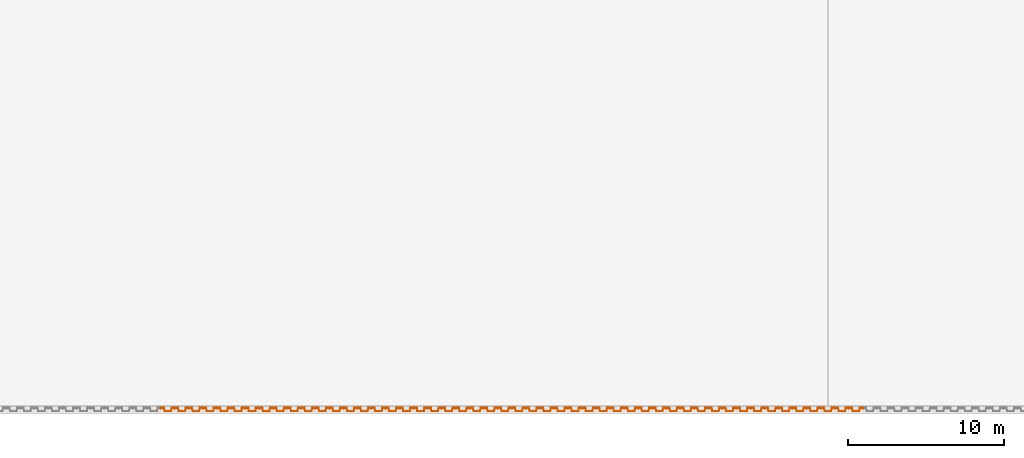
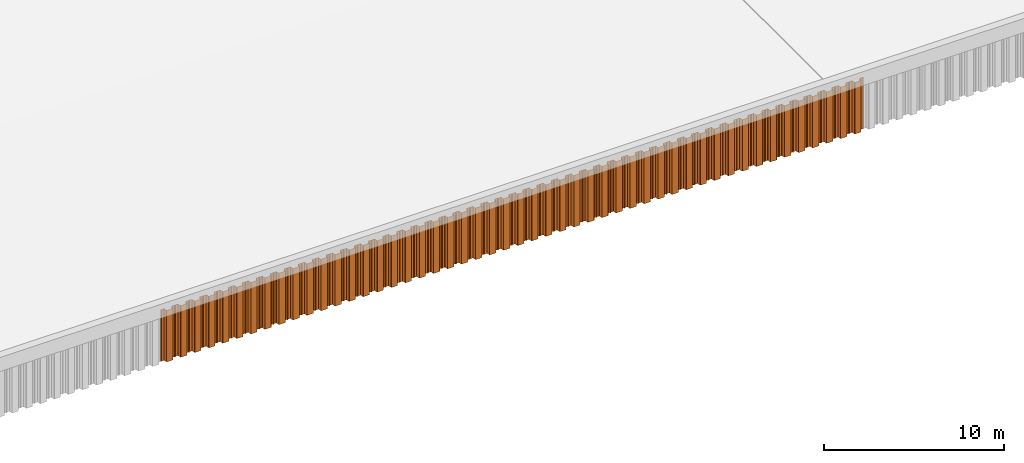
# One storey, part 18 of 32: 50 proxies.
"""IFC2X3 building model written with IfcOpenShell, lengths in millimetres."""

from ifc_helpers import new_model, entity, si_unit, converted_unit, derived_unit, direction, frame, frame_2d, origin, place, context, subcontext, project, spatial, polyline, circle_curve, parameter, trimmed, segment, composite_curve, outline, extrude, source, transform, mapped, type_object, type_shapes, element, save


model = new_model("IFC2X3")

# Units and contexts
model_context = context("Model", 3, precision=0.01, world=origin(), true_north=direction((6.12303176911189e-17, 1.0)))
body_context = subcontext(model_context, "Body", "Model", "MODEL_VIEW")
ifc_project = project(units=[si_unit("LENGTHUNIT", "METRE", prefix="MILLI"), si_unit("AREAUNIT", "SQUARE_METRE"), si_unit("VOLUMEUNIT", "CUBIC_METRE"), converted_unit("PLANEANGLEUNIT", "DEGREE", entity("IfcRatioMeasure", 0.0174532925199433), si_unit("PLANEANGLEUNIT", "RADIAN"), dimensions=[0, 0, 0, 0, 0, 0, 0]), si_unit("MASSUNIT", "GRAM", prefix="KILO"), derived_unit("MASSDENSITYUNIT", [(si_unit("MASSUNIT", "GRAM", prefix="KILO"), 1), (si_unit("LENGTHUNIT", "METRE"), -3)]), si_unit("TIMEUNIT", "SECOND"), si_unit("FREQUENCYUNIT", "HERTZ"), si_unit("THERMODYNAMICTEMPERATUREUNIT", "DEGREE_CELSIUS"), derived_unit("THERMALTRANSMITTANCEUNIT", [(si_unit("MASSUNIT", "GRAM", prefix="KILO"), 1), (si_unit("THERMODYNAMICTEMPERATUREUNIT", "KELVIN"), -1), (si_unit("TIMEUNIT", "SECOND"), -3)]), derived_unit("VOLUMETRICFLOWRATEUNIT", [(si_unit("LENGTHUNIT", "METRE"), 3), (si_unit("TIMEUNIT", "SECOND"), -1)]), si_unit("ELECTRICCURRENTUNIT", "AMPERE"), si_unit("ELECTRICVOLTAGEUNIT", "VOLT"), si_unit("POWERUNIT", "WATT"), si_unit("FORCEUNIT", "NEWTON", prefix="KILO"), si_unit("ILLUMINANCEUNIT", "LUX"), si_unit("LUMINOUSFLUXUNIT", "LUMEN"), si_unit("LUMINOUSINTENSITYUNIT", "CANDELA"), derived_unit("USERDEFINED", [(si_unit("MASSUNIT", "GRAM", prefix="KILO"), -1), (si_unit("LENGTHUNIT", "METRE"), -2), (si_unit("TIMEUNIT", "SECOND"), 3), (si_unit("LUMINOUSFLUXUNIT", "LUMEN"), 1)]), derived_unit("LINEARVELOCITYUNIT", [(si_unit("LENGTHUNIT", "METRE"), 1), (si_unit("TIMEUNIT", "SECOND"), -1)]), si_unit("PRESSUREUNIT", "PASCAL"), derived_unit("USERDEFINED", [(si_unit("LENGTHUNIT", "METRE"), -2), (si_unit("MASSUNIT", "GRAM", prefix="KILO"), 1), (si_unit("TIMEUNIT", "SECOND"), -2)])], contexts=[model_context])

# Site, building, storey
site_placement = place(None, origin())
site = spatial("IfcSite", under=ifc_project, at=site_placement, Name="Default", CompositionType="ELEMENT")
building_placement = place(site_placement, origin())
building = spatial("IfcBuilding", under=site, at=building_placement, CompositionType="ELEMENT")
storey_placement = place(building_placement, origin())
storey = spatial("IfcBuildingStorey", under=building, at=storey_placement, Name="矢板", CompositionType="ELEMENT", Elevation=0.0)

# Proxies
building_element_proxy_type = type_object("IfcBuildingElementProxyType", Name="鋼矢板10H型", PredefinedType="NOTDEFINED")
shared_shape = source(origin(), body_context, "Body", "SweptSolid", [
    extrude(outline(composite_curve([segment(trimmed(circle_curve(frame_2d((85.3662976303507, 306.644432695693), x_axis=(0.422618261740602, 0.906307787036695)), 13.885714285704), [parameter(24.9999999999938)], [parameter(90.0000000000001)], True, "PARAMETER"), True, "CONTINUOUS"), segment(polyline([(72.7815666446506, 312.512789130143), (9.8129512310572, 177.476157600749)]), True, "CONTINUOUS"), segment(trimmed(circle_curve(frame_2d((29.3891994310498, 168.347603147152), x_axis=(0.422618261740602, 0.906307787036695)), 21.6), [parameter(90.0000000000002)], [parameter(168.69006752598)], True, "PARAMETER"), True, "CONTINUOUS"), segment(polyline([(16.598697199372, 150.941769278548), (175.329723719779, 34.2998683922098)]), True, "CONTINUOUS"), segment(trimmed(circle_curve(frame_2d((168.93447260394, 25.596951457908), x_axis=(0.422618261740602, 0.906307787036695)), 10.7999999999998), [parameter(270.0)], [parameter(348.690067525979)], True, "PARAMETER"), False, "CONTINUOUS"), segment(polyline([(178.722596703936, 21.0326742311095), (18.2974003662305, -323.000269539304)]), True, "CONTINUOUS"), segment(trimmed(circle_curve(frame_2d((8.50927626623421, -318.435992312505), x_axis=(0.422618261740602, 0.906307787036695)), 10.8), [parameter(191.30993247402)], [parameter(269.999999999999)], True, "PARAMETER"), False, "CONTINUOUS"), segment(polyline([(5.95324328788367, -328.929166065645), (-185.429973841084, -282.310113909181)]), True, "CONTINUOUS"), segment(trimmed(circle_curve(frame_2d((-190.542039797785, -303.296461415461), x_axis=(0.422618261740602, 0.906307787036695)), 21.6000000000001), [parameter(11.3099324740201)], [parameter(90.0000000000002)], True, "PARAMETER"), True, "CONTINUOUS"), segment(polyline([(-210.118287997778, -294.167906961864), (-290.330886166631, -466.184378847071)]), True, "CONTINUOUS"), segment(trimmed(circle_curve(frame_2d((-270.754637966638, -475.312933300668), x_axis=(0.422618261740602, 0.906307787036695)), 21.6), [parameter(90.0000000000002)], [parameter(269.999999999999)], True, "PARAMETER"), True, "CONTINUOUS"), segment(polyline([(-251.178389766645, -484.441487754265), (-249.065298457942, -479.909948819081)]), True, "CONTINUOUS"), segment(polyline([(-249.065298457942, -479.909948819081), (-258.853422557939, -475.345671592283)]), True, "CONTINUOUS"), segment(polyline([(-258.853422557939, -475.345671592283), (-260.966513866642, -479.877210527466)]), True, "CONTINUOUS"), segment(trimmed(circle_curve(frame_2d((-270.754637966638, -475.312933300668), x_axis=(0.422618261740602, 0.906307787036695)), 10.8), [parameter(90.0000000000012)], [parameter(270.0)], True, "PARAMETER"), False, "CONTINUOUS"), segment(polyline([(-280.542762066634, -470.748656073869), (-200.330163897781, -298.732184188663)]), True, "CONTINUOUS"), segment(trimmed(circle_curve(frame_2d((-190.542039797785, -303.296461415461), x_axis=(0.422618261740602, 0.906307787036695)), 10.8), [parameter(11.3099324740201)], [parameter(89.9999999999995)], True, "PARAMETER"), False, "CONTINUOUS"), segment(polyline([(-187.986006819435, -292.803287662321), (3.39721030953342, -339.422339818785)]), True, "CONTINUOUS"), segment(trimmed(circle_curve(frame_2d((8.50927626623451, -318.435992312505), x_axis=(0.422618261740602, 0.906307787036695)), 21.6), [parameter(191.30993247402)], [parameter(270.0)], True, "PARAMETER"), True, "CONTINUOUS"), segment(polyline([(28.0855244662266, -327.564546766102), (188.510720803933, 16.4683970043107)]), True, "CONTINUOUS"), segment(trimmed(circle_curve(frame_2d((168.93447260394, 25.5969514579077), x_axis=(0.422618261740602, 0.906307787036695)), 21.6), [parameter(270.0)], [parameter(348.69006752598)], True, "PARAMETER"), True, "CONTINUOUS"), segment(polyline([(181.724974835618, 43.0027853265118), (22.9939483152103, 159.644686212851)]), True, "CONTINUOUS"), segment(trimmed(circle_curve(frame_2d((29.3891994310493, 168.347603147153), x_axis=(0.422618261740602, 0.906307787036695)), 10.7999999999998), [parameter(89.9999999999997)], [parameter(168.690067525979)], True, "PARAMETER"), False, "CONTINUOUS"), segment(polyline([(19.6010753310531, 172.911880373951), (82.5696907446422, 307.948511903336)]), True, "CONTINUOUS"), segment(trimmed(circle_curve(frame_2d((85.3662976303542, 306.64443269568), x_axis=(0.422618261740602, 0.906307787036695)), 3.08571428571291), [parameter(25.0000000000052)], [parameter(90.0000000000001)], True, "PARAMETER"), False, "CONTINUOUS"), segment(polyline([(85.3662976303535, 309.730146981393), (122.220231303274, 309.730146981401)]), True, "CONTINUOUS"), segment(trimmed(circle_curve(frame_2d((122.220231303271, 323.615861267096), x_axis=(0.422618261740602, 0.906307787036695)), 13.8857142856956), [parameter(205.000000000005)], [parameter(270.0)], True, "PARAMETER"), True, "CONTINUOUS"), segment(polyline([(134.804962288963, 317.747504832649), (141.079261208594, 331.202782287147)]), True, "CONTINUOUS"), segment(trimmed(circle_curve(frame_2d((121.503013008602, 340.331336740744), x_axis=(0.422618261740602, 0.906307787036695)), 21.6), [parameter(270.0)], [parameter(90.0000000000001)], True, "PARAMETER"), True, "CONTINUOUS"), segment(polyline([(101.926764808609, 349.459891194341), (99.8136734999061, 344.928352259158)]), True, "CONTINUOUS"), segment(polyline([(99.8136734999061, 344.928352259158), (109.601797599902, 340.364075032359)]), True, "CONTINUOUS"), segment(polyline([(109.601797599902, 340.364075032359), (111.714888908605, 344.895613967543)]), True, "CONTINUOUS"), segment(trimmed(circle_curve(frame_2d((121.503013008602, 340.331336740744), x_axis=(0.422618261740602, 0.906307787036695)), 10.8), [parameter(270.0)], [parameter(89.9999999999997)], True, "PARAMETER"), False, "CONTINUOUS"), segment(polyline([(131.291137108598, 335.767059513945), (125.01683818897, 322.311782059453)]), True, "CONTINUOUS"), segment(trimmed(circle_curve(frame_2d((122.220231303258, 323.615861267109), x_axis=(0.422618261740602, 0.906307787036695)), 3.08571428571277), [parameter(204.999999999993)], [parameter(270.0)], True, "PARAMETER"), False, "CONTINUOUS"), segment(polyline([(122.220231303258, 320.530146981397), (85.3662976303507, 320.530146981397)]), True, "CONTINUOUS")], self_intersect=False)), frame((95.205667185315, -48.8888888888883, -3500.0), z_axis=(0.0, 0.0, -1.0), x_axis=(0.4226182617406, 0.906307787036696, 0.0)), (0.0, 0.0, -1.0), 3500.0),
])
type_shapes(building_element_proxy_type, [shared_shape])
for number, where, z_axis, x_axis in (
    (1, (106902.5, -52500.0, 5850.0), (0.0, 0.0, 1.0), (-1.0, 0.0, 0.0)),
    (2, (106002.5, -52500.0, 5850.0), (0.0, 0.0, 1.0), (-1.0, 0.0, 0.0)),
    (3, (105102.5, -52500.0, 5850.0), (0.0, 0.0, 1.0), (-1.0, 0.0, 0.0)),
    (4, (104202.5, -52500.0, 5850.0), (0.0, 0.0, 1.0), (-1.0, 0.0, 0.0)),
    (5, (103302.5, -52500.0, 5850.0), (0.0, 0.0, 1.0), (-1.0, 0.0, 0.0)),
    (6, (102402.5, -52500.0, 5850.0), (0.0, 0.0, 1.0), (-1.0, 0.0, 0.0)),
    (7, (101502.5, -52500.0, 5850.0), (0.0, 0.0, 1.0), (-1.0, 0.0, 0.0)),
    (8, (100602.5, -52500.0, 5850.0), (0.0, 0.0, 1.0), (-1.0, 0.0, 0.0)),
    (9, (99702.4999999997, -52500.0, 5850.0), (0.0, 0.0, 1.0), (-1.0, 0.0, 0.0)),
    (10, (98802.4999999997, -52500.0, 5850.0), (0.0, 0.0, 1.0), (-1.0, 0.0, 0.0)),
    (11, (97902.4999999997, -52500.0, 5850.0), (0.0, 0.0, 1.0), (-1.0, 0.0, 0.0)),
    (12, (97002.4999999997, -52500.0, 5850.0), (0.0, 0.0, 1.0), (-1.0, 0.0, 0.0)),
    (13, (96102.4999999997, -52500.0, 5850.0), (0.0, 0.0, 1.0), (-1.0, 0.0, 0.0)),
    (14, (95202.4999999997, -52500.0, 5850.0), (0.0, 0.0, 1.0), (-1.0, 0.0, 0.0)),
    (15, (94302.4999999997, -52500.0, 5850.0), (0.0, 0.0, 1.0), (-1.0, 0.0, 0.0)),
    (16, (93402.4999999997, -52500.0, 5850.0), (0.0, 0.0, 1.0), (-1.0, 0.0, 0.0)),
    (17, (92502.4999999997, -52500.0, 5850.0), (0.0, 0.0, 1.0), (-1.0, 0.0, 0.0)),
    (18, (91602.4999999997, -52500.0, 5850.0), (0.0, 0.0, 1.0), (-1.0, 0.0, 0.0)),
    (19, (90702.4999999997, -52500.0, 5850.0), (0.0, 0.0, 1.0), (-1.0, 0.0, 0.0)),
    (20, (89802.4999999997, -52500.0, 5850.0), (0.0, 0.0, 1.0), (-1.0, 0.0, 0.0)),
    (21, (88902.4999999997, -52500.0, 5850.0), (0.0, 0.0, 1.0), (-1.0, 0.0, 0.0)),
    (22, (88002.4999999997, -52500.0, 5850.0), (0.0, 0.0, 1.0), (-1.0, 0.0, 0.0)),
    (23, (87102.4999999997, -52500.0, 5850.0), (0.0, 0.0, 1.0), (-1.0, 0.0, 0.0)),
    (24, (86202.4999999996, -52500.0, 5850.0), (0.0, 0.0, 1.0), (-1.0, 0.0, 0.0)),
    (25, (85302.4999999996, -52500.0, 5850.0), (0.0, 0.0, 1.0), (-1.0, 0.0, 0.0)),
    (26, (84402.4999999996, -52500.0, 5850.0), (0.0, 0.0, 1.0), (-1.0, 0.0, 0.0)),
    (27, (83502.4999999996, -52500.0, 5850.0), (0.0, 0.0, 1.0), (-1.0, 0.0, 0.0)),
    (28, (82602.4999999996, -52500.0, 5850.0), (0.0, 0.0, 1.0), (-1.0, 0.0, 0.0)),
    (29, (81702.4999999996, -52500.0, 5850.0), (0.0, 0.0, 1.0), (-1.0, 0.0, 0.0)),
    (30, (80802.4999999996, -52500.0, 5850.0), (0.0, 0.0, 1.0), (-1.0, 0.0, 0.0)),
    (31, (79902.4999999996, -52500.0, 5850.0), (0.0, 0.0, 1.0), (-1.0, 0.0, 0.0)),
    (32, (79002.4999999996, -52500.0, 5850.0), (0.0, 0.0, 1.0), (-1.0, 0.0, 0.0)),
    (33, (78102.4999999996, -52500.0, 5850.0), (0.0, 0.0, 1.0), (-1.0, 0.0, 0.0)),
    (34, (77202.4999999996, -52500.0, 5850.0), (0.0, 0.0, 1.0), (-1.0, 0.0, 0.0)),
    (35, (76302.4999999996, -52500.0, 5850.0), (0.0, 0.0, 1.0), (-1.0, 0.0, 0.0)),
    (36, (75402.4999999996, -52500.0, 5850.0), (0.0, 0.0, 1.0), (-1.0, 0.0, 0.0)),
    (37, (74502.4999999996, -52500.0, 5850.0), (0.0, 0.0, 1.0), (-1.0, 0.0, 0.0)),
    (38, (73602.4999999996, -52500.0, 5850.0), (0.0, 0.0, 1.0), (-1.0, 0.0, 0.0)),
    (39, (72702.4999999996, -52500.0, 5850.0), (0.0, 0.0, 1.0), (-1.0, 0.0, 0.0)),
    (40, (71802.4999999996, -52500.0, 5850.0), (0.0, 0.0, 1.0), (-1.0, 0.0, 0.0)),
    (41, (70902.4999999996, -52500.0, 5850.0), (0.0, 0.0, 1.0), (-1.0, 0.0, 0.0)),
    (42, (70002.4999999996, -52500.0, 5850.0), (0.0, 0.0, 1.0), (-1.0, 0.0, 0.0)),
    (43, (69102.4999999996, -52500.0, 5850.0), (0.0, 0.0, 1.0), (-1.0, 0.0, 0.0)),
    (44, (68202.4999999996, -52500.0, 5850.0), (0.0, 0.0, 1.0), (-1.0, 0.0, 0.0)),
    (45, (67302.4999999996, -52500.0, 5850.0), (0.0, 0.0, 1.0), (-1.0, 0.0, 0.0)),
    (46, (66402.4999999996, -52500.0, 5850.0), (0.0, 0.0, 1.0), (-1.0, 0.0, 0.0)),
    (47, (65502.4999999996, -52500.0, 5850.0), (0.0, 0.0, 1.0), (-1.0, 0.0, 0.0)),
    (48, (64602.4999999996, -52500.0, 5850.0), (0.0, 0.0, 1.0), (-1.0, 0.0, 0.0)),
    (49, (63702.4999999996, -52500.0, 5850.0), (0.0, 0.0, 1.0), (-1.0, 0.0, 0.0)),
    (50, (62802.4999999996, -52500.0, 5850.0), (0.0, 0.0, 1.0), (-1.0, 0.0, 0.0)),
):
    element("IfcBuildingElementProxy", number, at=place(storey_placement, frame(where, z_axis=z_axis, x_axis=x_axis)), inside=storey, type_object=building_element_proxy_type, Name="鋼矢板10H型:鋼矢板10H型", ObjectType="鋼矢板10H型:鋼矢板10H型", context=body_context, shape_type="MappedRepresentation", body=[
        mapped(shared_shape, transform((0.0, 0.0, 0.0), scale=1.0)),
    ])

save(model, "model.ifc")
